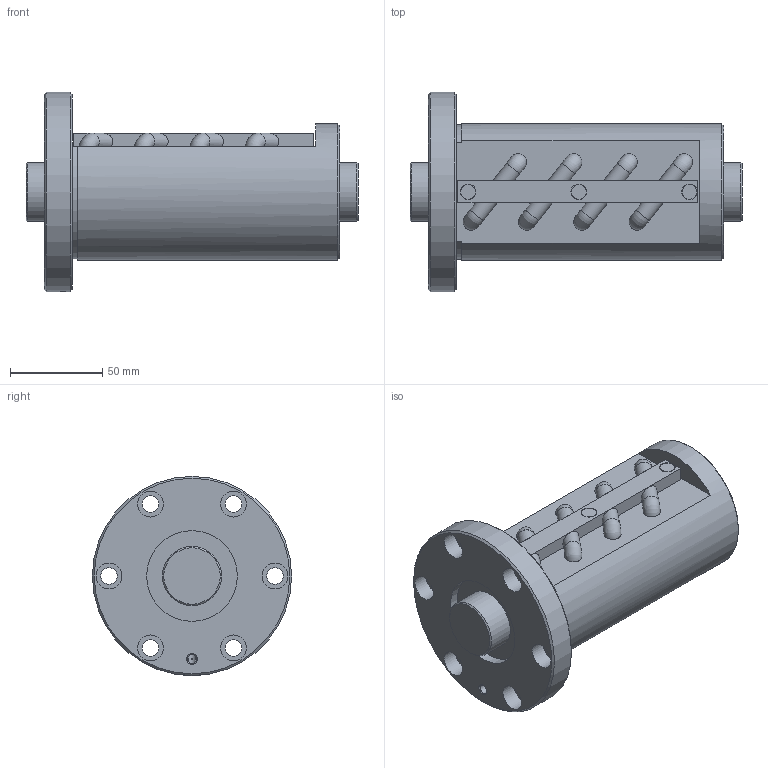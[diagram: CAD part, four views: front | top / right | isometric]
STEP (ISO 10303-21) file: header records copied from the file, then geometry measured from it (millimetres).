
FILE_DESCRIPTION(/* description */ ('STEP AP203'),/* implementation_level */ '2;1');
FILE_NAME(/* name */ 'BIF3210V-10RRG0+180LC0_000',/* time_stamp */ '2024-07-15T08:23:08+02:00',/* author */ ('License CC BY-ND 4.0'),/* organization */ ('CADENAS'),/* preprocessor_version */ 'ST-DEVELOPER v19.3',/* originating_system */ 'PARTsolutions',/* authorisation */ ' ');
FILE_SCHEMA (('CONFIG_CONTROL_DESIGN'));
Length unit declared in the file: millimetre
Products named in the file (3): BIF3210V-10RRG0+180LC0_000; BIF3210V-10RR000 Shaft; BIF3210V-10RR Nut
Assembly tree (2 placements, depth 2):
  BIF3210V-10RRG0+180LC0_000
    BIF3210V-10RR000 Shaft
    BIF3210V-10RR Nut
Bounding box: 180 x 108 x 108 mm (x, y, z)
Volume: 708935.6 mm3; surface area: 98310.6 mm2
Topology: 2 solids, 2 shells, 106 faces, 239 edges, 152 vertices
Faces by surface type: plane 53, cylinder 36, cone 9, torus 8
Full cylindrical faces by diameter (mm): 4.25 x2, 4.917 x1, 8 x3, 8.5 x3, 9 x6, 14 x6, 32 x2, 49.2 x2, 74 x1, 108 x1
Entity records: 2978 total; most frequent: CARTESIAN_POINT 624, DIRECTION 514, ORIENTED_EDGE 386, AXIS2_PLACEMENT_3D 227, EDGE_CURVE 193, FACE_BOUND 175, EDGE_LOOP 174, VERTEX_POINT 144
